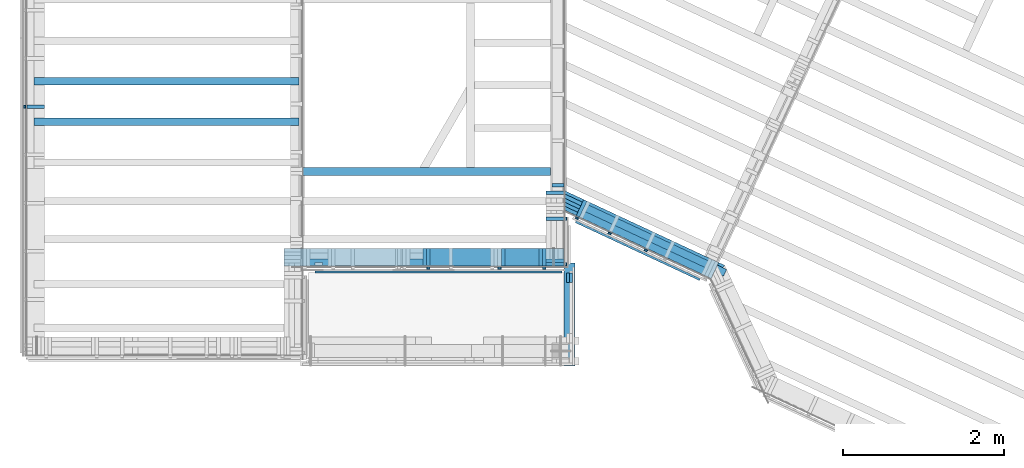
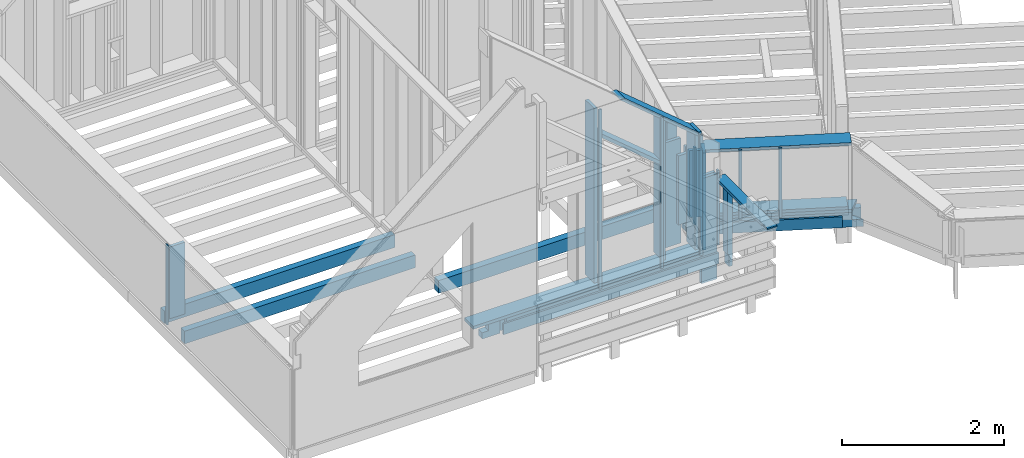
# One storey, part 5 of 24: 40 members.
"""IFC2X3 building model written with IfcOpenShell, lengths in metres."""

from ifc_helpers import new_model, si_unit, direction, frame, origin_with_axes, place, context, subcontext, project, spatial, faceted_brep, material, element, save


model = new_model("IFC2X3")

# Units and contexts
model_context = context("Model", 3, precision=1e-06, world=origin_with_axes(), true_north=direction((0.0, 1.0, 0.0)))
body_context = subcontext(model_context, "Body", "Model", "MODEL_VIEW")
ifc_project = project(units=[si_unit("LENGTHUNIT", "METRE"), si_unit("AREAUNIT", "SQUARE_METRE"), si_unit("VOLUMEUNIT", "CUBIC_METRE"), si_unit("PLANEANGLEUNIT", "RADIAN")], contexts=[model_context])

# Site, building, storey
site_placement = place(None, origin_with_axes())
site = spatial("IfcSite", under=ifc_project, at=site_placement, CompositionType="ELEMENT")
building_placement = place(site_placement, origin_with_axes())
building = spatial("IfcBuilding", under=site, at=building_placement, Name="Building 1", CompositionType="ELEMENT")
storey_placement = place(building_placement, origin_with_axes())
storey = spatial("IfcBuildingStorey", under=building, at=storey_placement, Name="Premier Etage", CompositionType="ELEMENT", Elevation=0.0)

# Members
ifc_material_1 = material(Name="Epicéa C24")
member_1_placement = place(storey_placement, frame((7.2665199, 1.520632, 3.8536408), z_axis=(-0.4226183, -0.9063078, 0.0), x_axis=(0.0, 0.0, -1.0)))
element("IfcMember", 1, at=member_1_placement, inside=storey, material=ifc_material_1, Name="latte 27/40", context=body_context, shape_type="Brep", body=[
    faceted_brep([(1.0436408, -0.02, 0.012), (0.0, -0.02, 0.012), (0.0, -0.02, -0.012), (1.0436408, -0.02, -0.012), (1.0436408, 0.02, -0.012), (0.0, 0.02, -0.012), (0.0, 0.02, 0.012), (1.0436408, 0.02, 0.012)], [[[0, 1, 2, 3]], [[4, 3, 2, 5]], [[6, 7, 4, 5]], [[0, 7, 6, 1]], [[7, 0, 3, 4]], [[1, 6, 5, 2]]]),
])
member_2_placement = place(storey_placement, frame((6.4085, 1.2228281, 4.6350055), z_axis=(0.0, 1.0, 0.0), x_axis=(0.0, 0.0, -1.0)))
element("IfcMember", 2, at=member_2_placement, inside=storey, material=ifc_material_1, Name="Montant", context=body_context, shape_type="Brep", body=[
    faceted_brep([(0.0377595, -0.0225, -0.11), (0.0, 0.0225, -0.11), (1.7400055, 0.0225, -0.11), (1.7400055, -0.0225, -0.11), (0.0, 0.0225, 0.11), (1.7400055, 0.0225, 0.11), (0.0377595, -0.0225, 0.11), (1.7400055, -0.0225, 0.11)], [[[0, 1, 2, 3]], [[1, 4, 5, 2]], [[4, 6, 7, 5]], [[6, 0, 3, 7]], [[0, 6, 4, 1]], [[3, 2, 5, 7]]]),
])
member_3_placement = place(storey_placement, frame((6.8601607, 1.7101204, 3.8536408), z_axis=(-0.4226183, -0.9063078, 0.0), x_axis=(0.0, 0.0, -1.0)))
element("IfcMember", 3, at=member_3_placement, inside=storey, material=ifc_material_1, Name="latte 27/40", context=body_context, shape_type="Brep", body=[
    faceted_brep([(1.0036408, -0.02, -0.012), (1.0036408, -0.02, 0.012), (0.0, -0.02, 0.012), (0.0, -0.02, -0.012), (1.0036408, 0.02, -0.012), (0.0, 0.02, -0.012), (1.0036408, 0.02, 0.012), (0.0, 0.02, 0.012)], [[[0, 1, 2, 3]], [[4, 0, 3, 5]], [[6, 4, 5, 7]], [[1, 6, 7, 2]], [[4, 6, 1, 0]], [[2, 7, 5, 3]]]),
])
ifc_material_2 = material(Name="NH II")
member_4_placement = place(storey_placement, frame((6.6885595, 1.8684791, 2.695), z_axis=(0.0, 0.0, -1.0), x_axis=(0.9063078, -0.4226183, 0.0)))
element("IfcMember", 4, at=member_4_placement, inside=storey, material=ifc_material_2, Name="Ceinture", context=body_context, shape_type="Brep", body=[
    faceted_brep([(2.0581804, 0.046, 0.0), (2.201307, 0.046, 0.0), (2.0916657, -0.046, 0.0), (1.9485391, -0.046, 0.0), (1.9485391, -0.046, -0.11), (2.0581804, 0.046, -0.11), (2.201307, 0.046, 0.11), (2.0916657, -0.046, 0.11), (0.0429003, 0.046, -0.11), (0.0429003, 0.046, 0.11), (0.0, -0.046, -0.11), (0.0, -0.046, 0.11)], [[[0, 1, 2, 3]], [[4, 5, 0, 3]], [[2, 1, 6, 7]], [[1, 0, 5, 8, 9, 6]], [[10, 11, 9, 8]], [[9, 11, 7, 6]], [[3, 2, 7, 11, 10, 4]], [[5, 4, 10, 8]]]),
])
member_5_placement = place(storey_placement, frame((0.122, 3.098, 3.9778151), z_axis=(-1.0, 0.0, 0.0), x_axis=(0.0, 0.0, -1.0)))
element("IfcMember", 5, at=member_5_placement, inside=storey, material=ifc_material_1, Name="Montant", context=body_context, shape_type="Brep", body=[
    faceted_brep([(1.0828151, -0.0225, -0.11), (1.0828151, 0.0225, -0.11), (1.0828151, 0.0225, 0.11), (1.0828151, -0.0225, 0.11), (0.0, -0.0225, 0.11), (0.0, -0.0225, -0.11), (0.0, 0.0225, -0.11), (0.0, 0.0225, 0.11)], [[[0, 1, 2, 3]], [[0, 3, 4, 5]], [[1, 0, 5, 6]], [[2, 1, 6, 7]], [[3, 2, 7, 4]], [[4, 7, 6, 5]]]),
])
member_6_placement = place(storey_placement, frame((6.586, 1.1353281, 3.9378151), z_axis=(1.0, 0.0, 0.0), x_axis=(0.0, 0.0, -1.0)))
element("IfcMember", 6, at=member_6_placement, inside=storey, material=ifc_material_1, Name="Montant", context=body_context, shape_type="Brep", body=[
    faceted_brep([(1.5878151, 0.0225, 0.11), (0.0, 0.0225, 0.11), (0.0, -0.0225, 0.11), (1.5878151, -0.0225, 0.11), (0.0, 0.0225, -0.11), (0.0, -0.0225, -0.11), (1.5878151, 0.0225, -0.11), (1.5878151, -0.0225, -0.11)], [[[0, 1, 2, 3]], [[1, 4, 5, 2]], [[6, 4, 1, 0]], [[7, 5, 4, 6]], [[3, 2, 5, 7]], [[6, 0, 3, 7]]]),
])
member_7_placement = place(storey_placement, frame((6.586, 1.1803281, 3.9378151), z_axis=(1.0, 0.0, 0.0), x_axis=(0.0, 0.0, -1.0)))
element("IfcMember", 7, at=member_7_placement, inside=storey, material=ifc_material_1, Name="Montant", context=body_context, shape_type="Brep", body=[
    faceted_brep([(1.0428151, -0.0225, -0.11), (1.0428151, 0.0225, -0.11), (1.0428151, 0.0225, 0.11), (1.0428151, -0.0225, 0.11), (0.0, -0.0225, 0.11), (0.0, -0.0225, -0.11), (0.0, 0.0225, -0.11), (0.0, 0.0225, 0.11)], [[[0, 1, 2, 3]], [[0, 3, 4, 5]], [[1, 0, 5, 6]], [[2, 1, 6, 7]], [[3, 2, 7, 4]], [[4, 7, 6, 5]]]),
])
member_8_placement = place(storey_placement, frame((6.721, 1.1353281, 3.9778151), z_axis=(1.0, 0.0, 0.0), x_axis=(0.0, 0.0, -1.0)))
element("IfcMember", 8, at=member_8_placement, inside=storey, material=ifc_material_1, Name="latte 27/40", context=body_context, shape_type="Brep", body=[
    faceted_brep([(1.1278151, 0.02, -0.012), (1.1278151, 0.02, 0.012), (1.1278151, -0.02, 0.012), (1.1278151, -0.02, -0.012), (0.0, -0.02, -0.012), (0.0, 0.02, -0.012), (0.0, -0.02, 0.012), (0.0, 0.02, 0.012)], [[[0, 1, 2, 3]], [[0, 3, 4, 5]], [[3, 2, 6, 4]], [[2, 1, 7, 6]], [[6, 7, 5, 4]], [[1, 0, 5, 7]]]),
])
member_9_placement = place(storey_placement, frame((6.696, 1.2228281, 2.8275), z_axis=(0.0, -1.0, 0.0), x_axis=(-1.0, 0.0, 0.0)))
element("IfcMember", 9, at=member_9_placement, inside=storey, material=ifc_material_1, Name="Lisse basse", context=body_context, shape_type="Brep", body=[
    faceted_brep([(0.0, -0.0225, 0.11), (3.48, -0.0225, 0.11), (3.48, 0.0225, 0.11), (0.0, 0.0225, 0.11), (0.0, 0.0225, -0.11), (0.0, -0.0225, -0.11), (3.48, 0.0225, -0.11), (3.48, -0.0225, -0.11)], [[[0, 1, 2, 3]], [[4, 5, 0, 3]], [[3, 2, 6, 4]], [[4, 6, 7, 5]], [[5, 7, 1, 0]], [[1, 7, 6, 2]]]),
])
member_10_placement = place(storey_placement, frame((0.104, 3.4132176, 2.709), z_axis=(0.0, 0.0, -1.0), x_axis=(1.0, 0.0, 0.0)))
element("IfcMember", 10, at=member_10_placement, inside=storey, material=ifc_material_2, Name="Solive", context=body_context, shape_type="Brep", body=[
    faceted_brep([(3.294, -0.046, 0.096), (3.294, -0.046, -0.096), (3.294, 0.046, -0.096), (3.294, 0.046, 0.096), (0.0, -0.046, -0.096), (0.0, -0.046, 0.096), (0.0, 0.046, 0.096), (0.0, 0.046, -0.096)], [[[0, 1, 2, 3]], [[4, 5, 6, 7]], [[3, 6, 5, 0]], [[2, 7, 6, 3]], [[1, 4, 7, 2]], [[0, 5, 4, 1]]]),
])
member_11_placement = place(storey_placement, frame((6.6885595, 1.9699899, 2.695), z_axis=(0.0, 0.0, -1.0), x_axis=(0.9063078, -0.4226183, 0.0)))
element("IfcMember", 11, at=member_11_placement, inside=storey, material=ifc_material_2, Name="Ceinture", context=body_context, shape_type="Brep", body=[
    faceted_brep([(0.0429003, 0.046, 0.11), (0.0, -0.046, 0.11), (2.2240573, -0.046, 0.11), (2.2240573, 0.046, 0.11), (0.0429003, 0.046, -0.11), (2.2240573, 0.046, -0.11), (0.0, -0.046, -0.11), (2.2240573, -0.046, -0.11)], [[[0, 1, 2, 3]], [[4, 0, 3, 5]], [[6, 4, 5, 7]], [[1, 6, 7, 2]], [[1, 0, 4, 6]], [[2, 7, 5, 3]]]),
])
member_12_placement = place(storey_placement, frame((6.586, 1.7032125, 3.9378151), z_axis=(1.0, 0.0, 0.0), x_axis=(0.0, 0.0, -1.0)))
element("IfcMember", 12, at=member_12_placement, inside=storey, material=ifc_material_1, Name="Montant", context=body_context, shape_type="Brep", body=[
    faceted_brep([(1.0428151, -0.0225, -0.11), (1.0428151, 0.0225, -0.11), (1.0428151, 0.0225, 0.11), (1.0428151, -0.0225, 0.11), (0.0, -0.0225, 0.11), (0.0, -0.0225, -0.11), (0.0, 0.0225, -0.11), (0.0, 0.0225, 0.11)], [[[0, 1, 2, 3]], [[0, 3, 4, 5]], [[1, 0, 5, 6]], [[2, 1, 6, 7]], [[3, 2, 7, 4]], [[4, 7, 6, 5]]]),
])
member_13_placement = place(storey_placement, frame((4.9650389, 1.2228281, 5.5354713), z_axis=(0.0, -1.0, 0.0), x_axis=(0.0, 0.0, -1.0)))
element("IfcMember", 13, at=member_13_placement, inside=storey, material=ifc_material_1, Name="Montant", context=body_context, shape_type="Brep", body=[
    faceted_brep([(2.6404713, -0.0225, -0.11), (2.6404713, 0.0225, -0.11), (2.6404713, 0.0225, 0.11), (2.6404713, -0.0225, 0.11), (0.0, -0.0225, 0.11), (0.0, -0.0225, -0.11), (0.0, 0.0225, -0.11), (0.0, 0.0225, 0.11)], [[[0, 1, 2, 3]], [[0, 3, 4, 5]], [[1, 0, 5, 6]], [[2, 1, 6, 7]], [[3, 2, 7, 4]], [[4, 7, 6, 5]]]),
])
member_14_placement = place(storey_placement, frame((-0.013, 3.098, 4.0178151), z_axis=(-1.0, 0.0, 0.0), x_axis=(0.0, 0.0, -1.0)))
element("IfcMember", 14, at=member_14_placement, inside=storey, material=ifc_material_1, Name="latte 27/40", context=body_context, shape_type="Brep", body=[
    faceted_brep([(1.2078151, -0.02, 0.012), (0.0, -0.02, 0.012), (0.0, -0.02, -0.012), (1.2078151, -0.02, -0.012), (1.2078151, 0.02, -0.012), (0.0, 0.02, -0.012), (0.0, 0.02, 0.012), (1.2078151, 0.02, 0.012)], [[[0, 1, 2, 3]], [[4, 3, 2, 5]], [[6, 7, 4, 5]], [[0, 7, 6, 1]], [[7, 0, 3, 4]], [[1, 6, 5, 2]]]),
])
member_15_placement = place(storey_placement, frame((6.6235, 2.1189744, 4.1774), z_axis=(1.0, 0.0, 0.0), x_axis=(0.0, 0.0, -1.0)))
element("IfcMember", 15, at=member_15_placement, inside=storey, material=ifc_material_1, Name="Montant", context=body_context, shape_type="Brep", body=[
    faceted_brep([(0.0, 0.0225, 0.0725), (0.0, 0.0225, -0.0725), (0.0235466, -0.0225, -0.0725), (0.0235466, -0.0225, 0.0725), (1.2824, 0.0225, -0.0725), (1.2824, -0.0225, -0.0725), (1.2824, 0.0225, 0.0725), (1.2824, -0.0225, 0.0725)], [[[0, 1, 2, 3]], [[2, 1, 4, 5]], [[1, 0, 6, 4]], [[0, 3, 7, 6]], [[3, 2, 5, 7]], [[5, 4, 6, 7]]]),
])
member_16_placement = place(storey_placement, frame((0.104, 2.9082176, 2.709), z_axis=(0.0, 0.0, -1.0), x_axis=(1.0, 0.0, 0.0)))
element("IfcMember", 16, at=member_16_placement, inside=storey, material=ifc_material_2, Name="Solive", context=body_context, shape_type="Brep", body=[
    faceted_brep([(3.294, -0.046, 0.096), (3.294, -0.046, -0.096), (3.294, 0.046, -0.096), (3.294, 0.046, 0.096), (0.0, -0.046, -0.096), (0.0, -0.046, 0.096), (0.0, 0.046, 0.096), (0.0, 0.046, -0.096)], [[[0, 1, 2, 3]], [[4, 5, 6, 7]], [[3, 6, 5, 0]], [[2, 7, 6, 3]], [[1, 4, 7, 2]], [[0, 5, 4, 1]]]),
])
member_17_placement = place(storey_placement, frame((6.7791671, 1.8002988, 2.85), z_axis=(-0.9063078, 0.4226183, 0.0), x_axis=(0.0, 0.0, 1.0)))
element("IfcMember", 17, at=member_17_placement, inside=storey, material=ifc_material_1, Name="Montant", context=body_context, shape_type="Brep", body=[
    faceted_brep([(0.0, -0.0225, 0.0680323), (0.0, 0.0225, 0.0890162), (0.0, 0.0225, -0.0890162), (0.0, -0.0225, -0.0890162), (1.0086408, 0.0225, 0.0890162), (1.0086408, 0.0225, -0.0890162), (1.0086408, -0.0225, 0.0680323), (1.0086408, -0.0225, -0.0890162)], [[[0, 1, 2, 3]], [[2, 1, 4, 5]], [[1, 0, 6, 4]], [[3, 2, 5, 7]], [[4, 6, 7, 5]], [[0, 3, 7, 6]]]),
])
member_18_placement = place(storey_placement, frame((6.4454627, 1.2228281, 4.614482), z_axis=(0.0, -1.0, 0.0), x_axis=(-0.7660444, 0.0, 0.6427876)))
element("IfcMember", 18, at=member_18_placement, inside=storey, material=ifc_material_1, Name="Montant", context=body_context, shape_type="Brep", body=[
    faceted_brep([(0.0, 0.0225, -0.11), (0.0377595, -0.0225, -0.11), (0.0377595, -0.0225, 0.11), (0.0, 0.0225, 0.11), (1.4059906, -0.0225, -0.11), (1.4059906, -0.0225, 0.11), (1.4596195, 0.0225, -0.11), (1.4596195, 0.0225, 0.11)], [[[0, 1, 2, 3]], [[2, 1, 4, 5]], [[1, 0, 6, 4]], [[3, 2, 5, 7]], [[7, 5, 4, 6]], [[0, 3, 7, 6]]]),
])
ifc_material_3 = material(Name="Sapin")
member_19_placement = place(storey_placement, frame((6.767, 0.9693281, 2.635), z_axis=(1.0, 0.0, 0.0), x_axis=(0.0, 0.0, 1.0)))
element("IfcMember", 19, at=member_19_placement, inside=storey, material=ifc_material_3, Name="poteau de balcon", context=body_context, shape_type="Brep", body=[
    faceted_brep([(1.112, -0.0585, 0.0), (1.182, -0.0585, 0.0), (1.182, 0.0585, 0.0), (1.112, 0.0585, 0.0), (1.182, -0.0585, -0.035), (1.182, 0.0585, -0.035), (0.191, 0.0585, -0.035), (0.191, 0.0585, -0.015), (0.0, 0.0585, -0.015), (0.0, 0.0585, 0.035), (1.112, 0.0585, 0.035), (0.191, -0.0585, -0.035), (1.112, -0.0585, 0.035), (0.0, -0.0585, 0.035), (0.0, -0.0585, -0.015), (0.191, -0.0585, -0.015)], [[[0, 1, 2, 3]], [[2, 1, 4, 5]], [[3, 2, 5, 6, 7, 8, 9, 10]], [[4, 11, 6, 5]], [[1, 0, 12, 13, 14, 15, 11, 4]], [[13, 12, 10, 9]], [[10, 12, 0, 3]], [[9, 8, 14, 13]], [[6, 11, 15, 7]], [[7, 15, 14, 8]]]),
])
member_20_placement = place(storey_placement, frame((6.9172142, 1.8324719, 3.8136408), z_axis=(-0.4226183, -0.9063078, 0.0), x_axis=(0.0, 0.0, -1.0)))
element("IfcMember", 20, at=member_20_placement, inside=storey, material=ifc_material_1, Name="Montant", context=body_context, shape_type="Brep", body=[
    faceted_brep([(1.4636408, 0.0225, 0.11), (0.0, 0.0225, 0.11), (0.0, -0.0225, 0.11), (1.4636408, -0.0225, 0.11), (0.0, -0.0225, -0.11), (0.0, 0.0225, -0.11), (1.4636408, -0.0225, -0.11), (1.4636408, 0.0225, -0.11)], [[[0, 1, 2, 3]], [[4, 2, 1, 5]], [[4, 6, 3, 2]], [[5, 7, 6, 4]], [[1, 0, 7, 5]], [[3, 6, 7, 0]]]),
])
member_21_placement = place(storey_placement, frame((8.6535232, 1.0228177, 2.8275), z_axis=(0.4226183, 0.9063078, 0.0), x_axis=(-0.9063078, 0.4226183, 0.0)))
element("IfcMember", 21, at=member_21_placement, inside=storey, material=ifc_material_1, Name="Lisse basse", context=body_context, shape_type="Brep", body=[
    faceted_brep([(0.0800735, -0.0225, -0.11), (0.0, -0.0225, 0.11), (0.0, 0.0225, 0.11), (0.0800735, 0.0225, -0.11), (2.1981132, -0.0225, 0.11), (2.1981132, 0.0225, 0.11), (2.1085941, -0.0225, -0.11), (2.2088476, -0.0225, 0.1049944), (2.1085941, 0.0225, -0.11), (2.2088476, 0.0225, 0.1049944)], [[[0, 1, 2, 3]], [[2, 1, 4, 5]], [[1, 0, 6, 7, 4]], [[0, 3, 8, 6]], [[3, 2, 5, 9, 8]], [[9, 7, 6, 8]], [[7, 9, 5, 4]]]),
])
member_22_placement = place(storey_placement, frame((7.7170455, 1.3105484, 3.8536408), z_axis=(-0.4226183, -0.9063078, 0.0), x_axis=(0.0, 0.0, -1.0)))
element("IfcMember", 22, at=member_22_placement, inside=storey, material=ifc_material_1, Name="latte 27/40", context=body_context, shape_type="Brep", body=[
    faceted_brep([(1.0436408, -0.02, 0.012), (0.0, -0.02, 0.012), (0.0, -0.02, -0.012), (1.0436408, -0.02, -0.012), (1.0436408, 0.02, -0.012), (0.0, 0.02, -0.012), (0.0, 0.02, 0.012), (1.0436408, 0.02, 0.012)], [[[0, 1, 2, 3]], [[4, 3, 2, 5]], [[6, 7, 4, 5]], [[0, 7, 6, 1]], [[7, 0, 3, 4]], [[1, 6, 5, 2]]]),
])
member_23_placement = place(storey_placement, frame((6.586, 2.0289744, 3.9378151), z_axis=(1.0, 0.0, 0.0), x_axis=(0.0, 0.0, -1.0)))
element("IfcMember", 23, at=member_23_placement, inside=storey, material=ifc_material_1, Name="Montant", context=body_context, shape_type="Brep", body=[
    faceted_brep([(1.5878151, 0.0225, 0.11), (0.0, 0.0225, 0.11), (0.0, -0.0225, 0.11), (1.5878151, -0.0225, 0.11), (0.0, 0.0225, -0.11), (0.0, -0.0225, -0.11), (1.5878151, 0.0225, -0.11), (1.5878151, -0.0225, -0.11)], [[[0, 1, 2, 3]], [[1, 4, 5, 2]], [[6, 4, 1, 0]], [[7, 5, 4, 6]], [[3, 2, 5, 7]], [[6, 0, 3, 7]]]),
])
member_24_placement = place(storey_placement, frame((6.4535, 1.2228281, 4.6559893), z_axis=(0.0, 1.0, 0.0), x_axis=(0.0, 0.0, -1.0)))
element("IfcMember", 24, at=member_24_placement, inside=storey, material=ifc_material_1, Name="Montant", context=body_context, shape_type="Brep", body=[
    faceted_brep([(0.0, 0.0225, -0.11), (0.0, -0.0225, -0.11), (0.0, -0.0225, 0.11), (0.0, 0.0225, 0.11), (1.7609893, -0.0225, -0.11), (1.7609893, -0.0225, 0.11), (1.7609893, 0.0225, -0.11), (1.7609893, 0.0225, 0.11)], [[[0, 1, 2, 3]], [[2, 1, 4, 5]], [[1, 0, 6, 4]], [[0, 3, 7, 6]], [[3, 2, 5, 7]], [[4, 6, 7, 5]]]),
])
member_25_placement = place(storey_placement, frame((6.4535, 1.0878281, 4.6203276), z_axis=(0.0, 1.0, 0.0), x_axis=(0.0, 0.0, -1.0)))
element("IfcMember", 25, at=member_25_placement, inside=storey, material=ifc_material_1, Name="latte 27/40", context=body_context, shape_type="Brep", body=[
    faceted_brep([(1.8103276, 0.02, -0.012), (1.8103276, 0.02, 0.012), (1.8103276, -0.02, 0.012), (1.8103276, -0.02, -0.012), (0.0, 0.02, 0.012), (0.0, 0.02, -0.012), (0.0, -0.02, -0.012), (0.0, -0.02, 0.012)], [[[0, 1, 2, 3]], [[4, 5, 6, 7]], [[3, 6, 5, 0]], [[2, 7, 6, 3]], [[1, 4, 7, 2]], [[0, 5, 4, 1]]]),
])
member_26_placement = place(storey_placement, frame((6.8968222, 1.8419808, 2.8725), z_axis=(0.4226183, 0.9063078, 0.0), x_axis=(0.9063078, -0.4226183, 0.0)))
element("IfcMember", 26, at=member_26_placement, inside=storey, material=ifc_material_1, Name="Montant", context=body_context, shape_type="Brep", body=[
    faceted_brep([(0.0, -0.0225, -0.11), (0.0, -0.0225, 0.11), (0.0, 0.0225, 0.11), (0.0, 0.0225, -0.11), (1.808864, -0.0225, 0.11), (1.808864, 0.0225, 0.11), (1.808864, -0.0225, -0.11), (1.808864, 0.0225, -0.11)], [[[0, 1, 2, 3]], [[2, 1, 4, 5]], [[1, 0, 6, 4]], [[7, 5, 4, 6]], [[3, 2, 5, 7]], [[0, 3, 7, 6]]]),
])
member_27_placement = place(storey_placement, frame((6.8968222, 1.8419808, 3.8361408), z_axis=(0.4226183, 0.9063078, 0.0), x_axis=(0.9063078, -0.4226183, 0.0)))
element("IfcMember", 27, at=member_27_placement, inside=storey, material=ifc_material_1, Name="Montant", context=body_context, shape_type="Brep", body=[
    faceted_brep([(1.853864, -0.0225, -0.11), (0.0, -0.0225, -0.11), (0.0, 0.0225, -0.11), (1.853864, 0.0225, -0.11), (1.853864, 0.0225, 0.11), (1.853864, -0.0225, 0.11), (0.0, -0.0225, 0.11), (0.0, 0.0225, 0.11)], [[[0, 1, 2, 3]], [[4, 5, 0, 3]], [[5, 6, 1, 0]], [[7, 4, 3, 2]], [[6, 5, 4, 7]], [[6, 7, 2, 1]]]),
])
member_28_placement = place(storey_placement, frame((6.552, 1.1588281, 2.709), z_axis=(0.0, 0.0, -1.0), x_axis=(-1.0, 0.0, 0.0)))
element("IfcMember", 28, at=member_28_placement, inside=storey, material=ifc_material_2, Name="Ceinture", context=body_context, shape_type="Brep", body=[
    faceted_brep([(2.86, -0.046, -0.096), (2.86, -0.046, 0.096), (0.0, -0.046, 0.096), (0.0, -0.046, -0.096), (3.116, 0.046, -0.096), (3.116, -0.046, -0.096), (2.956, -0.046, -0.096), (2.956, 0.0, -0.096), (2.86, 0.0, -0.096), (0.0, 0.046, -0.096), (2.956, 0.0, 0.096), (2.956, -0.046, 0.096), (3.208, -0.046, 0.096), (3.208, 0.046, 0.096), (0.0, 0.046, 0.096), (2.86, 0.0, 0.096), (3.116, -0.046, 0.0), (3.208, -0.046, 0.0), (3.116, 0.046, 0.0), (3.208, 0.046, 0.0)], [[[0, 1, 2, 3]], [[4, 5, 6, 7, 8, 0, 3, 9]], [[10, 11, 12, 13, 14, 2, 1, 15]], [[6, 11, 10, 7]], [[10, 15, 8, 7]], [[1, 0, 8, 15]], [[5, 16, 17, 12, 11, 6]], [[5, 4, 18, 16]], [[17, 16, 18, 19]], [[17, 19, 13, 12]], [[3, 2, 14, 9]], [[18, 4, 9, 14, 13, 19]]]),
])
member_29_placement = place(storey_placement, frame((5.8950389, 1.0878281, 5.0889321), z_axis=(0.0, -1.0, 0.0), x_axis=(0.0, 0.0, -1.0)))
element("IfcMember", 29, at=member_29_placement, inside=storey, material=ifc_material_1, Name="latte 27/40", context=body_context, shape_type="Brep", body=[
    faceted_brep([(2.2789321, 0.02, -0.012), (2.2789321, 0.02, 0.012), (2.2789321, -0.02, 0.012), (2.2789321, -0.02, -0.012), (0.0, 0.02, 0.012), (0.0, 0.02, -0.012), (0.0, -0.02, -0.012), (0.0, -0.02, 0.012)], [[[0, 1, 2, 3]], [[4, 5, 6, 7]], [[3, 6, 5, 0]], [[2, 7, 6, 3]], [[1, 4, 7, 2]], [[0, 5, 4, 1]]]),
])
member_30_placement = place(storey_placement, frame((6.721, 1.7032125, 3.9778151), z_axis=(1.0, 0.0, 0.0), x_axis=(0.0, 0.0, -1.0)))
element("IfcMember", 30, at=member_30_placement, inside=storey, material=ifc_material_1, Name="latte 27/40", context=body_context, shape_type="Brep", body=[
    faceted_brep([(1.1678151, -0.02, 0.012), (1.1678151, 0.02, 0.012), (0.0, 0.02, 0.012), (0.0, -0.02, 0.012), (0.0, 0.02, -0.012), (0.0, -0.02, -0.012), (1.1678151, 0.02, -0.012), (1.1678151, -0.02, -0.012)], [[[0, 1, 2, 3]], [[3, 2, 4, 5]], [[2, 1, 6, 4]], [[1, 0, 7, 6]], [[6, 7, 5, 4]], [[0, 3, 5, 7]]]),
])
member_31_placement = place(storey_placement, frame((5.0100389, 1.2228281, 5.1087595), z_axis=(0.0, -1.0, 0.0), x_axis=(0.0, 0.0, -1.0)))
element("IfcMember", 31, at=member_31_placement, inside=storey, material=ifc_material_1, Name="Montant", context=body_context, shape_type="Brep", body=[
    faceted_brep([(0.0, -0.0225, -0.11), (0.0, -0.0225, 0.11), (0.0377595, 0.0225, 0.11), (0.0377595, 0.0225, -0.11), (1.2957595, -0.0225, 0.11), (1.2957595, 0.0225, 0.11), (1.2957595, -0.0225, -0.11), (1.2957595, 0.0225, -0.11)], [[[0, 1, 2, 3]], [[2, 1, 4, 5]], [[1, 0, 6, 4]], [[6, 7, 5, 4]], [[0, 3, 7, 6]], [[3, 2, 5, 7]]]),
])
member_32_placement = place(storey_placement, frame((5.0100389, 1.0878281, 5.5204713), z_axis=(0.0, -1.0, 0.0), x_axis=(0.0, 0.0, -1.0)))
element("IfcMember", 32, at=member_32_placement, inside=storey, material=ifc_material_1, Name="latte 27/40", context=body_context, shape_type="Brep", body=[
    faceted_brep([(2.7104713, 0.02, -0.012), (2.7104713, 0.02, 0.012), (2.7104713, -0.02, 0.012), (2.7104713, -0.02, -0.012), (0.0, 0.02, 0.012), (0.0, 0.02, -0.012), (0.0, -0.02, -0.012), (0.0, -0.02, 0.012)], [[[0, 1, 2, 3]], [[4, 5, 6, 7]], [[3, 6, 5, 0]], [[2, 7, 6, 3]], [[1, 4, 7, 2]], [[0, 5, 4, 1]]]),
])
member_33_placement = place(storey_placement, frame((6.7981849, 1.8907346, 2.85), z_axis=(-0.9063078, 0.4226183, 0.0), x_axis=(0.0, 0.0, 1.0)))
element("IfcMember", 33, at=member_33_placement, inside=storey, material=ifc_material_1, Name="Montant", context=body_context, shape_type="Brep", body=[
    faceted_brep([(0.0, 0.0225, -0.11), (0.0, -0.0225, -0.11), (0.0, -0.0225, 0.0890162), (0.0, 0.0225, 0.11), (1.0086408, -0.0225, -0.11), (1.0086408, -0.0225, 0.0890162), (1.0086408, 0.0225, -0.11), (1.0086408, 0.0225, 0.11)], [[[0, 1, 2, 3]], [[2, 1, 4, 5]], [[1, 0, 6, 4]], [[3, 2, 5, 7]], [[0, 3, 7, 6]], [[7, 5, 4, 6]]]),
])
member_34_placement = place(storey_placement, frame((5.9400389, 1.2228281, 5.028091), z_axis=(0.0, -1.0, 0.0), x_axis=(0.0, 0.0, -1.0)))
element("IfcMember", 34, at=member_34_placement, inside=storey, material=ifc_material_1, Name="Montant", context=body_context, shape_type="Brep", body=[
    faceted_brep([(0.0, -0.0225, -0.11), (0.0, -0.0225, 0.11), (0.0377595, 0.0225, 0.11), (0.0377595, 0.0225, -0.11), (2.133091, -0.0225, 0.11), (2.133091, 0.0225, 0.11), (2.133091, -0.0225, -0.11), (2.133091, 0.0225, -0.11)], [[[0, 1, 2, 3]], [[2, 1, 4, 5]], [[1, 0, 6, 4]], [[6, 7, 5, 4]], [[0, 3, 7, 6]], [[3, 2, 5, 7]]]),
])
member_35_placement = place(storey_placement, frame((6.788676, 1.8455167, 2.85), z_axis=(-0.9063078, 0.4226183, 0.0), x_axis=(0.0, 0.0, 1.0)))
element("IfcMember", 35, at=member_35_placement, inside=storey, material=ifc_material_1, Name="Montant", context=body_context, shape_type="Brep", body=[
    faceted_brep([(0.0, -0.0225, 0.0785242), (0.0, 0.0225, 0.0995081), (0.0, 0.0225, -0.0995081), (0.0, -0.0225, -0.0995081), (1.0086408, 0.0225, 0.0995081), (1.0086408, 0.0225, -0.0995081), (1.0086408, -0.0225, 0.0785242), (1.0086408, -0.0225, -0.0995081)], [[[0, 1, 2, 3]], [[2, 1, 4, 5]], [[1, 0, 6, 4]], [[3, 2, 5, 7]], [[4, 6, 7, 5]], [[0, 3, 7, 6]]]),
])
member_36_placement = place(storey_placement, frame((6.8434569, 1.6666024, 2.7225), z_axis=(0.0, 0.0, -1.0), x_axis=(0.9063078, -0.4226183, 0.0)))
element("IfcMember", 36, at=member_36_placement, inside=storey, material=ifc_material_2, Name="contre poutre", context=body_context, shape_type="Brep", body=[
    faceted_brep([(1.7063686, 0.0135, -0.0825), (1.7063686, 0.0135, 0.0825), (1.7063686, -0.0135, 0.0825), (1.7063686, -0.0135, -0.0825), (0.0, 0.0135, 0.0825), (0.0, 0.0135, -0.0825), (0.0, -0.0135, -0.0825), (0.0, -0.0135, 0.0825)], [[[0, 1, 2, 3]], [[4, 5, 6, 7]], [[3, 6, 5, 0]], [[2, 7, 6, 3]], [[1, 4, 7, 2]], [[0, 5, 4, 1]]]),
])
member_37_placement = place(storey_placement, frame((3.3695, 2.2882176, 2.705), z_axis=(0.0, 0.0, -1.0), x_axis=(1.0, 0.0, 0.0)))
element("IfcMember", 37, at=member_37_placement, inside=storey, material=ifc_material_2, Name="Poutre Lc", context=body_context, shape_type="Brep", body=[
    faceted_brep([(0.0785, -0.05, 0.092), (0.0, -0.05, 0.092), (0.0, -0.05, -0.1), (3.1585, -0.05, -0.1), (3.1585, -0.05, 0.1), (0.0785, -0.05, 0.1), (0.0, 0.05, -0.1), (3.1585, 0.05, -0.1), (0.0, 0.05, 0.092), (0.0785, 0.05, 0.092), (0.0785, 0.05, 0.1), (3.1585, 0.05, 0.1)], [[[0, 1, 2, 3, 4, 5]], [[3, 2, 6, 7]], [[8, 9, 10, 11, 7, 6]], [[1, 8, 6, 2]], [[1, 0, 9, 8]], [[0, 5, 10, 9]], [[4, 3, 7, 11]], [[10, 5, 4, 11]]]),
])
member_38_placement = place(storey_placement, frame((3.599, 1.0413281, 2.7225), z_axis=(0.0, 0.0, -1.0), x_axis=(1.0, 0.0, 0.0)))
element("IfcMember", 38, at=member_38_placement, inside=storey, material=ifc_material_2, Name="contre poutre", context=body_context, shape_type="Brep", body=[
    faceted_brep([(3.077, 0.0135, -0.0825), (3.077, 0.0135, 0.0825), (3.077, -0.0135, 0.0825), (3.077, -0.0135, -0.0825), (0.0, 0.0135, 0.0825), (0.0, 0.0135, -0.0825), (0.0, -0.0135, -0.0825), (0.0, -0.0135, 0.0825)], [[[0, 1, 2, 3]], [[4, 5, 6, 7]], [[3, 6, 5, 0]], [[2, 7, 6, 3]], [[1, 4, 7, 2]], [[0, 5, 4, 1]]]),
])
member_39_placement = place(storey_placement, frame((6.767, -0.129, 3.8395), z_axis=(1.0, 0.0, 0.0), x_axis=(0.0, 1.0, 0.0)))
element("IfcMember", 39, at=member_39_placement, inside=storey, material=ifc_material_2, Name="Main courante", context=body_context, shape_type="Brep", body=[
    faceted_brep([(0.14, -0.0225, 0.07), (0.14, -0.0225, -0.07), (1.2838281, -0.0225, -0.07), (1.2838281, -0.0225, 0.07), (0.14, 0.0, -0.07), (0.0, 0.0, -0.07), (0.0, 0.0225, -0.07), (1.2838281, 0.0225, -0.07), (0.0, 0.0, 0.07), (0.0, 0.0225, 0.07), (0.14, 0.0, 0.07), (1.2838281, 0.0225, 0.07)], [[[0, 1, 2, 3]], [[4, 5, 6, 7, 2, 1]], [[5, 8, 9, 6]], [[8, 10, 0, 3, 11, 9]], [[10, 4, 1, 0]], [[4, 10, 8, 5]], [[6, 9, 11, 7]], [[7, 11, 3, 2]]]),
])
member_40_placement = place(storey_placement, frame((5.9320016, 1.2228281, 4.3456328), z_axis=(0.0, -1.0, 0.0), x_axis=(-0.7660444, 0.0, 0.6427876)))
element("IfcMember", 40, at=member_40_placement, inside=storey, material=ifc_material_1, Name="Montant", context=body_context, shape_type="Brep", body=[
    faceted_brep([(0.0377595, -0.0225, 0.11), (0.0, 0.0225, 0.11), (0.0, 0.0225, -0.11), (0.0377595, -0.0225, -0.11), (1.2140288, 0.0225, -0.11), (1.2517883, -0.0225, -0.11), (1.2140288, 0.0225, 0.11), (1.2517883, -0.0225, 0.11)], [[[0, 1, 2, 3]], [[3, 2, 4, 5]], [[2, 1, 6, 4]], [[5, 4, 6, 7]], [[1, 0, 7, 6]], [[0, 3, 5, 7]]]),
])

save(model, "model.ifc")
